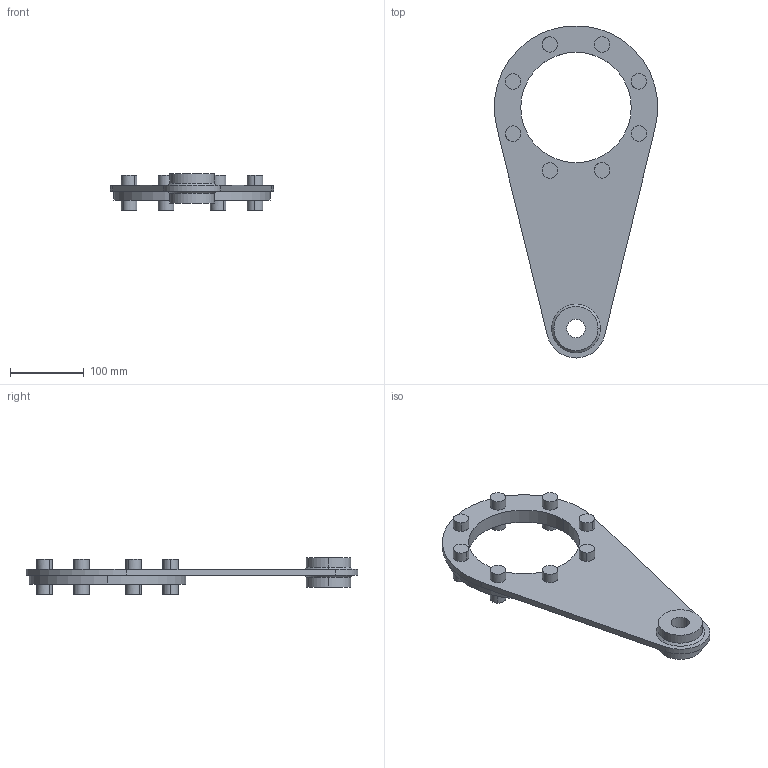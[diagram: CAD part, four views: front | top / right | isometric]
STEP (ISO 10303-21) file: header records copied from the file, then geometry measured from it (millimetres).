
FILE_DESCRIPTION(/* description */ (''),/* implementation_level */ '2;1');
FILE_NAME(/* name */ '6_BRAZZIO DI REAZIONE B123',/* time_stamp */ '2025-10-22T11:21:52+02:00',/* author */ (''),/* organization */ (''),/* preprocessor_version */ 'ST-DEVELOPER v19.2',/* originating_system */ 'Rhino 8.23',/* authorisation */ '');
FILE_SCHEMA (('CONFIG_CONTROL_DESIGN'));
Length unit declared in the file: millimetre
Products named in the file (2): Document; 123-300U-B12508_1
Bounding box: 221.51 x 450.59 x 50 mm (x, y, z)
Volume: 767918.1 mm3; surface area: 150020.7 mm2
Topology: 1 solids, 1 shells, 71 faces, 160 edges, 110 vertices
Faces by surface type: cylinder 44, plane 23, bspline 4
Entity records: 2465 total; most frequent: CARTESIAN_POINT 647, ORIENTED_EDGE 320, DIRECTION 287, AXIS2_PLACEMENT_3D 177, EDGE_CURVE 160, VERTEX_POINT 110, TRIMMED_CURVE 106, CIRCLE 106
